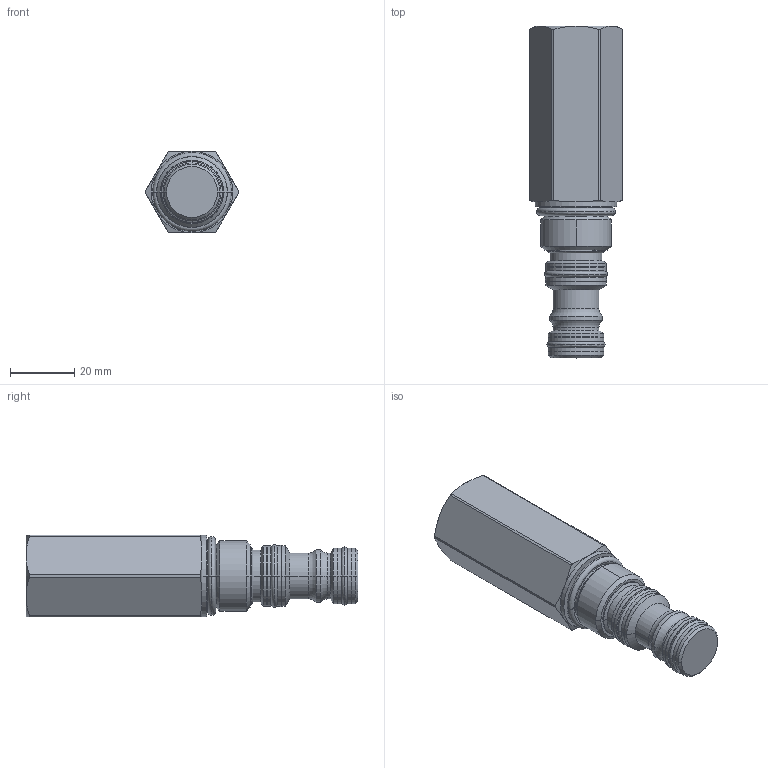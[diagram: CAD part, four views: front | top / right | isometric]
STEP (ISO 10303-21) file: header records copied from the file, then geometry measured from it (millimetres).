
FILE_DESCRIPTION((''),'2;1');
FILE_NAME('5282400_SW0002','2009-01-30T',('jcs'),(''),'PRO/ENGINEER BY PARAMETRIC TECHNOLOGY CORPORATION, 2008010','PRO/ENGINEER BY PARAMETRIC TECHNOLOGY CORPORATION, 2008010','');
FILE_SCHEMA(('CONFIG_CONTROL_DESIGN'));
Length unit declared in the file: inch
Products named in the file (1): 5282400_SW0002
Bounding box: 28.96 x 103.5 x 25.4 mm (x, y, z)
Volume: 43769.4 mm3; surface area: 11308.2 mm2
Topology: 8 solids, 8 shells, 142 faces, 298 edges, 168 vertices
Faces by surface type: cylinder 50, cone 34, revolution 24, plane 18, torus 16
Entity records: 4320 total; most frequent: CARTESIAN_POINT 1212, DIRECTION 682, ORIENTED_EDGE 596, EDGE_CURVE 298, AXIS2_PLACEMENT_3D 290, CIRCLE 172, VERTEX_POINT 168, EDGE_LOOP 152
